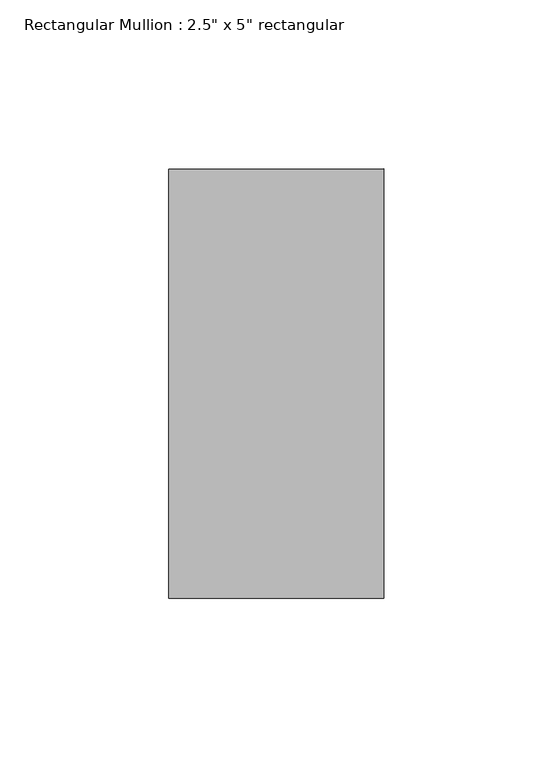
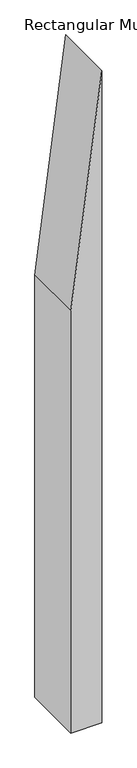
"""IFC4 building model written with IfcOpenShell, lengths in millimetres: member geometry."""

from ifc_helpers import new_model, si_unit, frame, origin, place, context, project, spatial, polyline, outline, extrude, source, transform, mapped, element, save


def member_e86309b8(model_context):
    return source(origin(), model_context, "Body", "SweptSolid", [
        extrude(outline(polyline([(-252.9810155, 31.75), (-750.8771365, -31.75), (-1664.1033108, -31.75), (-1664.1033108, 31.75), (-252.9810155, 31.75)])), frame((0.0, -63.5, 0.0), z_axis=(0.0, 1.0, 0.0), x_axis=(0.0, 0.0, 1.0)), (0.0, 0.0, 1.0), 127.0),
    ])


if __name__ == "__main__":
    model = new_model("IFC4")
    model_context = context("Model", 3, world=origin())
    ifc_project = project(units=[si_unit("LENGTHUNIT", "METRE", prefix="MILLI")], contexts=[model_context])
    site = spatial("IfcSite", under=ifc_project)
    building = spatial("IfcBuilding", under=site)
    placement = place(None, origin())
    member_shape = member_e86309b8(model_context)
    element("IfcMember", 1, ObjectType="Rectangular Mullion : 2.5\" x 5\" rectangular", at=placement, inside=building, context=model_context, shape_type="MappedRepresentation", body=[
        mapped(member_shape, transform((0.0, 0.0, 0.0), x_axis=(1.0, 0.0, 0.0), y_axis=(0.0, 1.0, 0.0), z_axis=(0.0, 0.0, 1.0))),
    ])
    save(model, "model.ifc")
